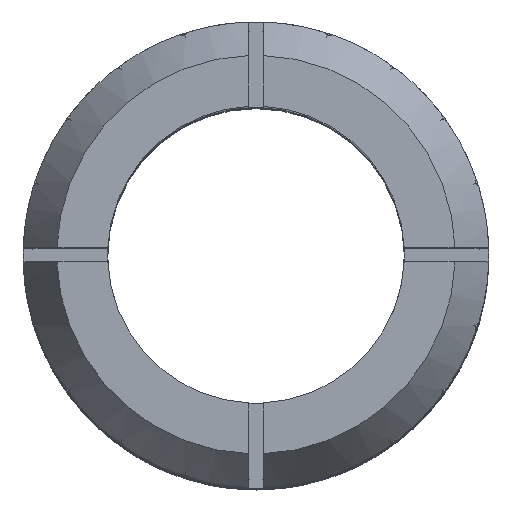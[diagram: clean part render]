
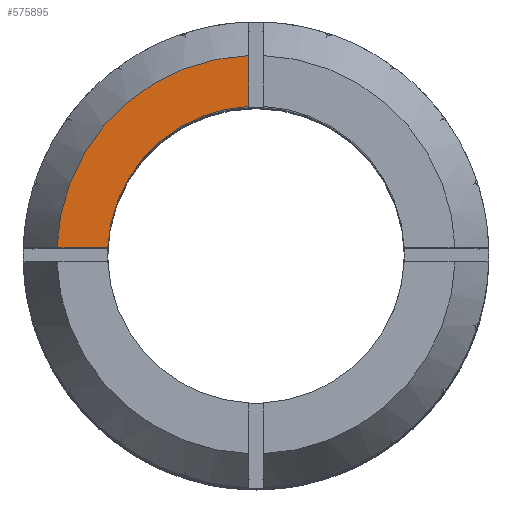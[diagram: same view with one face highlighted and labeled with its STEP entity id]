
A CAD part, top view. The second image highlights one B-rep face of the part: STEP entity #575895.
In plain terms, the highlighted planar face has unit normal (0, 0, 1).
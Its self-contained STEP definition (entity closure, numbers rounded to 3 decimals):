
#5944 = LINE ( 'NONE', #639652, #559414 ) ;
#22086 = CARTESIAN_POINT ( 'NONE',  ( -0.25, 6.841, 50. ) ) ;
#50327 = VECTOR ( 'NONE', #368533, 1000. ) ;
#51198 = DIRECTION ( 'NONE',  ( 0., -1., 0. ) ) ;
#89715 = PLANE ( 'NONE',  #214381 ) ;
#94474 = VERTEX_POINT ( 'NONE', #570222 ) ;
#95971 = EDGE_CURVE ( 'NONE', #388747, #379293, #236000, .T. ) ;
#99247 = CARTESIAN_POINT ( 'NONE',  ( -7.996, 0.25, 50. ) ) ;
#112819 = AXIS2_PLACEMENT_3D ( 'NONE', #220047, #595229, #273923 ) ;
#143543 = DIRECTION ( 'NONE',  ( 1., 0., 0. ) ) ;
#163055 = VERTEX_POINT ( 'NONE', #657511 ) ;
#180385 = EDGE_CURVE ( 'NONE', #94474, #388747, #494672, .T. ) ;
#214381 = AXIS2_PLACEMENT_3D ( 'NONE', #516183, #464521, #143543 ) ;
#220047 = CARTESIAN_POINT ( 'NONE',  ( 0., 0., 50. ) ) ;
#224401 = FACE_OUTER_BOUND ( 'NONE', #486824, .T. ) ;
#225828 = ORIENTED_EDGE ( 'NONE', *, *, #95971, .F. ) ;
#236000 = CIRCLE ( 'NONE', #112819, 6.845 ) ;
#237431 = ORIENTED_EDGE ( 'NONE', *, *, #180385, .F. ) ;
#240136 = EDGE_CURVE ( 'NONE', #379293, #163055, #5944, .T. ) ;
#268524 = DIRECTION ( 'NONE',  ( 0., 0., -1. ) ) ;
#273923 = DIRECTION ( 'NONE',  ( -1., 0., 0. ) ) ;
#336384 = CIRCLE ( 'NONE', #502222, 5.1 ) ;
#368533 = DIRECTION ( 'NONE',  ( -1., 0., 0. ) ) ;
#373684 = ORIENTED_EDGE ( 'NONE', *, *, #240136, .F. ) ;
#379293 = VERTEX_POINT ( 'NONE', #22086 ) ;
#388747 = VERTEX_POINT ( 'NONE', #603948 ) ;
#427462 = ORIENTED_EDGE ( 'NONE', *, *, #530337, .T. ) ;
#464521 = DIRECTION ( 'NONE',  ( 0., 0., 1. ) ) ;
#486824 = EDGE_LOOP ( 'NONE', ( #225828, #237431, #427462, #373684 ) ) ;
#494672 = LINE ( 'NONE', #99247, #50327 ) ;
#502222 = AXIS2_PLACEMENT_3D ( 'NONE', #589833, #268524, #643892 ) ;
#516183 = CARTESIAN_POINT ( 'NONE',  ( 0., 0., 50. ) ) ;
#530337 = EDGE_CURVE ( 'NONE', #94474, #163055, #336384, .T. ) ;
#559414 = VECTOR ( 'NONE', #51198, 1000. ) ;
#570222 = CARTESIAN_POINT ( 'NONE',  ( -5.094, 0.25, 50. ) ) ;
#575895 = ADVANCED_FACE ( 'NONE', ( #224401 ), #89715, .T. ) ;
#589833 = CARTESIAN_POINT ( 'NONE',  ( 0., 0., 50. ) ) ;
#595229 = DIRECTION ( 'NONE',  ( 0., 0., -1. ) ) ;
#603948 = CARTESIAN_POINT ( 'NONE',  ( -6.841, 0.25, 50. ) ) ;
#639652 = CARTESIAN_POINT ( 'NONE',  ( -0.25, 7.996, 50. ) ) ;
#643892 = DIRECTION ( 'NONE',  ( -1., 0., 0. ) ) ;
#657511 = CARTESIAN_POINT ( 'NONE',  ( -0.25, 5.094, 50. ) ) ;
